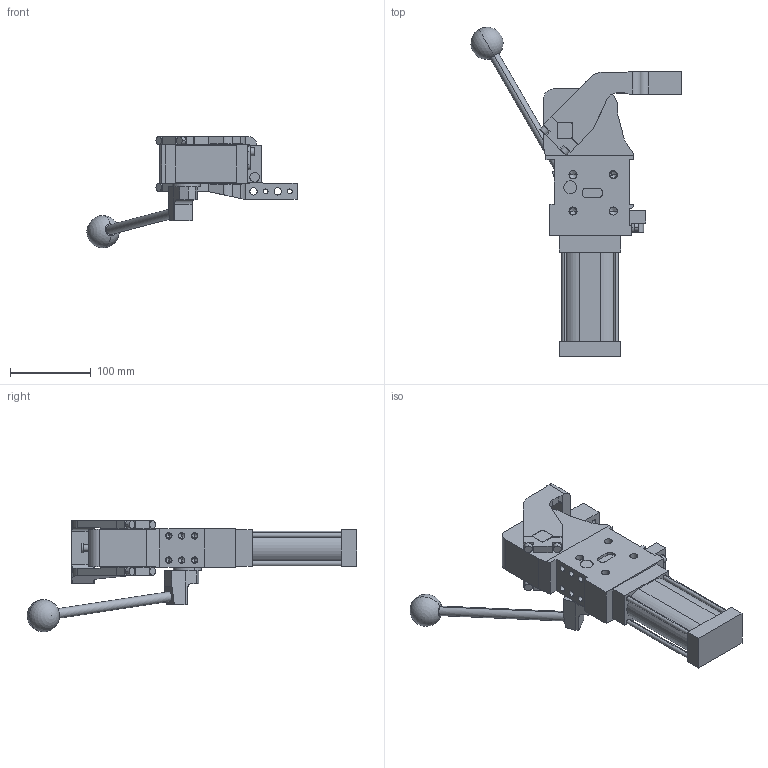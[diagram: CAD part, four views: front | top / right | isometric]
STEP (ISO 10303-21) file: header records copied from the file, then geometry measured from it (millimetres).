
FILE_DESCRIPTION (( 'STEP AP214' ), '1' );
FILE_NAME ('cplm50lbv3dsi1g_26.STEP', '2023-01-26T13:54:16', ( '' ), ( '' ), 'SwSTEP 2.0', 'SolidWorks 2022', '' );
FILE_SCHEMA (( 'AUTOMOTIVE_DESIGN' ));
Length unit declared in the file: millimetre
Products named in the file (5): comando_manuale_cplm_50; cplm50lbv3dsi1g_26; blocchetto_VEP_0; meccanica_cplm_50; leva_sx_offset_45_cpl50
Assembly tree (4 placements, depth 2):
  cplm50lbv3dsi1g_26
    meccanica_cplm_50
    blocchetto_VEP_0
    leva_sx_offset_45_cpl50
    comando_manuale_cplm_50
Bounding box: 260.54 x 408.46 x 138.5 mm (x, y, z)
Volume: 1483582.8 mm3; surface area: 184927.1 mm2
Topology: 4 solids, 4 shells, 433 faces, 1114 edges, 695 vertices
Faces by surface type: plane 214, cylinder 167, cone 50, sphere 2
Entity records: 14434 total; most frequent: CARTESIAN_POINT 2298, DIRECTION 2278, ORIENTED_EDGE 2126, EDGE_CURVE 1063, AXIS2_PLACEMENT_3D 790, VECTOR 698, LINE 698, VERTEX_POINT 692
